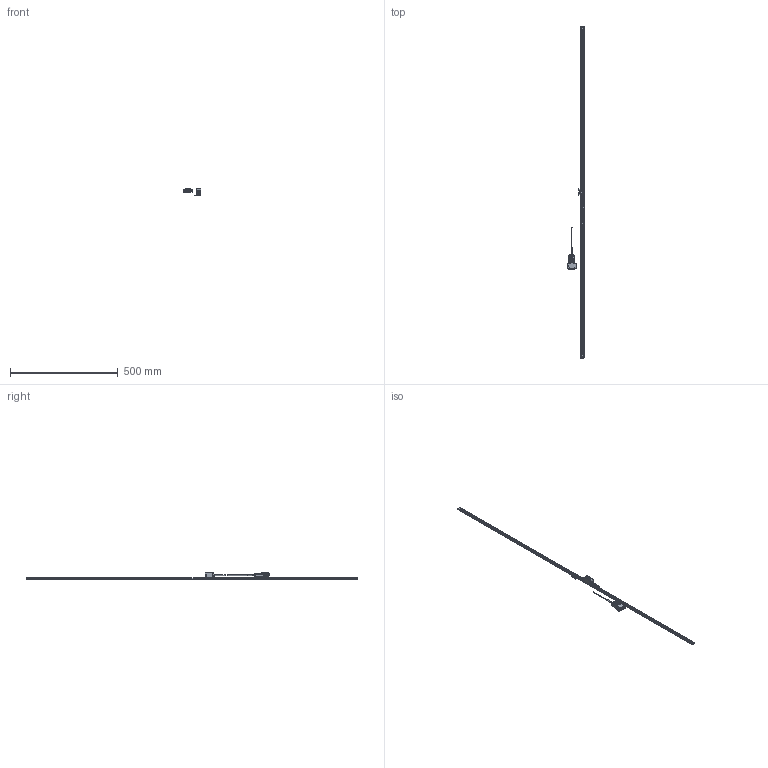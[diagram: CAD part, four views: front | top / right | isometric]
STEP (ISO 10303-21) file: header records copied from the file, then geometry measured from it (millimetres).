
FILE_DESCRIPTION(('Creo Elements/Direct Modeling STEP Export'),'2;1');
FILE_NAME('ST1300-1500F_G.stp','2022-08-16T10:53:23',(''),(''),'Creo Elements/Direct Modeling STEP processor for AP214 (Solid Model)','Creo Elements/Direct Modeling 18.1I 13-Aug-2016 (C) Parametric Technology GmbH','');
FILE_SCHEMA(('AUTOMOTIVE_DESIGN { 1 0 10303 214 1 1 1 1 }'));
Length unit declared in the file: millimetre
Products named in the file (4): Detector_Head; Scale_1500; Connector; ST1300-1500F_G
Assembly tree (3 placements, depth 2):
  ST1300-1500F_G
    Connector
    Scale_1500
    Detector_Head
Bounding box: 83 x 1540 x 30.1 mm (x, y, z)
Volume: 146804.3 mm3; surface area: 88614.4 mm2
Topology: 2 solids, 6 shells, 3585 faces, 9848 edges, 6417 vertices
Faces by surface type: plane 1676, cylinder 1555, extrusion 214, cone 87, torus 26, bspline 23, revolution 4
Entity records: 119289 total; most frequent: CARTESIAN_POINT 27697, ORIENTED_EDGE 19680, DIRECTION 18355, EDGE_CURVE 9836, VERTEX_POINT 6417, AXIS2_PLACEMENT_3D 6161, VECTOR 6027, LINE 5849
